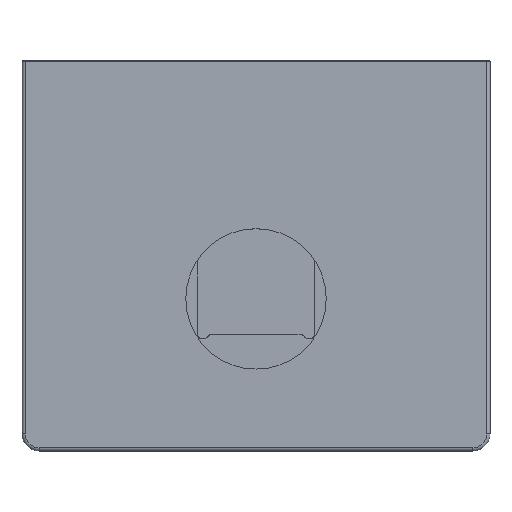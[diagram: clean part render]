
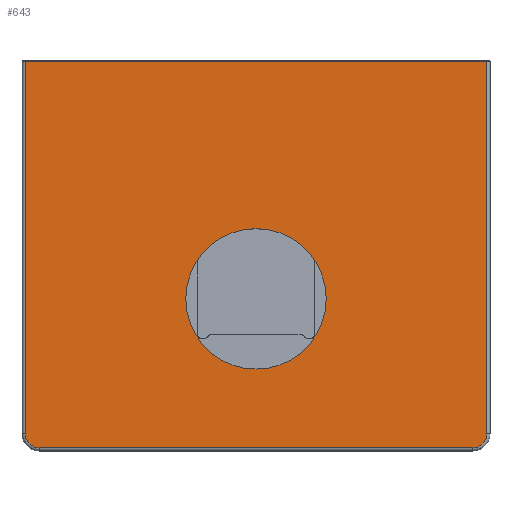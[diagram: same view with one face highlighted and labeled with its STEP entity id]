
A CAD part, top view. The second image highlights one B-rep face of the part: STEP entity #643.
In plain terms, the highlighted planar face has unit normal (0, 0, 1).
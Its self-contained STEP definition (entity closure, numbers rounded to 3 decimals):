
#324=CARTESIAN_POINT('',(11358.246,-711.749,190.0));
#325=VERTEX_POINT('',#324);
#326=CARTESIAN_POINT('',(11268.246,-711.749,190.0));
#327=DIRECTION('',(0.0,0.0,-1.0));
#328=DIRECTION('',(0.814,0.581,0.0));
#329=AXIS2_PLACEMENT_3D('',#326,#327,#328);
#330=CIRCLE('',#329,90.);
#331=EDGE_CURVE('',#325,#325,#330,.T.);
#480=CARTESIAN_POINT('',(11564.246,-407.249,190.0));
#481=VERTEX_POINT('',#480);
#513=CARTESIAN_POINT('',(10972.246,-407.249,190.0));
#514=VERTEX_POINT('',#513);
#521=CARTESIAN_POINT('',(10972.246,-407.249,190.0));
#522=DIRECTION('',(1.0,0.0,0.0));
#523=VECTOR('',#522,592.0);
#524=LINE('',#521,#523);
#525=EDGE_CURVE('',#514,#481,#524,.T.);
#592=CARTESIAN_POINT('',(11268.246,-902.75,190.0));
#593=DIRECTION('',(0.0,0.0,1.0));
#594=DIRECTION('',(1.0,0.0,0.0));
#595=AXIS2_PLACEMENT_3D('',#592,#593,#594);
#596=PLANE('',#595);
#597=ORIENTED_EDGE('',*,*,#525,.F.);
#598=CARTESIAN_POINT('',(10972.246,-884.749,190.0));
#599=VERTEX_POINT('',#598);
#600=CARTESIAN_POINT('',(10972.246,-884.749,190.0));
#601=DIRECTION('',(0.0,1.0,0.0));
#602=VECTOR('',#601,477.5);
#603=LINE('',#600,#602);
#604=EDGE_CURVE('',#599,#514,#603,.T.);
#605=ORIENTED_EDGE('',*,*,#604,.F.);
#606=CARTESIAN_POINT('',(10990.246,-902.749,190.0));
#607=VERTEX_POINT('',#606);
#608=CARTESIAN_POINT('',(10990.246,-884.749,190.));
#609=DIRECTION('',(0.,0.,-1.0));
#610=DIRECTION('',(-1.0,0.,0.));
#611=AXIS2_PLACEMENT_3D('',#608,#609,#610);
#612=CIRCLE('',#611,18.);
#613=EDGE_CURVE('',#607,#599,#612,.T.);
#614=ORIENTED_EDGE('',*,*,#613,.F.);
#615=CARTESIAN_POINT('',(11546.246,-902.749,190.0));
#616=VERTEX_POINT('',#615);
#617=CARTESIAN_POINT('',(11546.246,-902.749,190.0));
#618=DIRECTION('',(-1.0,0.0,0.0));
#619=VECTOR('',#618,556.0);
#620=LINE('',#617,#619);
#621=EDGE_CURVE('',#616,#607,#620,.T.);
#622=ORIENTED_EDGE('',*,*,#621,.F.);
#623=CARTESIAN_POINT('',(11564.246,-884.749,190.0));
#624=VERTEX_POINT('',#623);
#625=CARTESIAN_POINT('',(11546.246,-884.749,190.));
#626=DIRECTION('',(0.,0.,-1.0));
#627=DIRECTION('',(0.,-1.0,0.));
#628=AXIS2_PLACEMENT_3D('',#625,#626,#627);
#629=CIRCLE('',#628,18.);
#630=EDGE_CURVE('',#624,#616,#629,.T.);
#631=ORIENTED_EDGE('',*,*,#630,.F.);
#632=CARTESIAN_POINT('',(11564.246,-407.249,190.0));
#633=DIRECTION('',(0.0,-1.0,0.0));
#634=VECTOR('',#633,477.5);
#635=LINE('',#632,#634);
#636=EDGE_CURVE('',#481,#624,#635,.T.);
#637=ORIENTED_EDGE('',*,*,#636,.F.);
#638=EDGE_LOOP('',(#597,#605,#614,#622,#631,#637));
#639=FACE_OUTER_BOUND('',#638,.T.);
#640=ORIENTED_EDGE('',*,*,#331,.T.);
#641=EDGE_LOOP('',(#640));
#642=FACE_BOUND('',#641,.T.);
#643=ADVANCED_FACE('',(#639,#642),#596,.T.);
